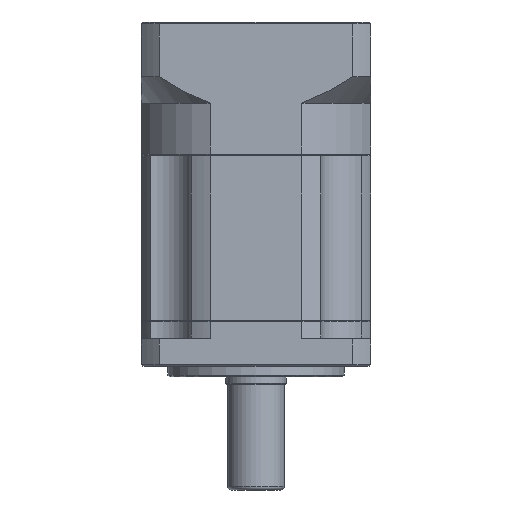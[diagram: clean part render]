
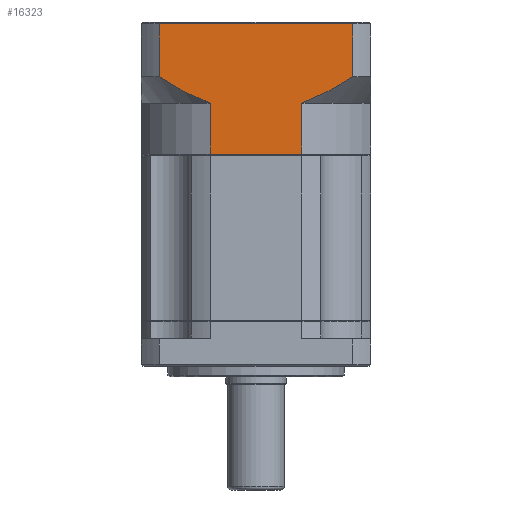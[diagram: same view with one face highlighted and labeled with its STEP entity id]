
A CAD part, front view. The second image highlights one B-rep face of the part: STEP entity #16323.
In plain terms, the highlighted planar face has unit normal (0, -1, 0).
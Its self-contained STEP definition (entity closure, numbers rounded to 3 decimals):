
#507 = CARTESIAN_POINT ( 'NONE',  ( 41.785, -33.003, 64.799 ) ) ;
#555 = DIRECTION ( 'NONE',  ( 1., 0., 0. ) ) ;
#2136 = CARTESIAN_POINT ( 'NONE',  ( 6.577, -33.003, 61.042 ) ) ;
#4035 = B_SPLINE_CURVE_WITH_KNOTS ( 'NONE', 3,
 ( #100606, #2136, #59998, #10468, #68275, #18844, #76339, #27121, #84563, #35482 ),
 .UNSPECIFIED., .F., .F.,
 ( 4, 2, 2, 2, 4 ),
 ( 0.101, 0.104, 0.106, 0.11, 0.118 ),
 .UNSPECIFIED. ) ;
#4650 = CARTESIAN_POINT ( 'NONE',  ( 7.22, -33.003, 60.803 ) ) ;
#5668 = CARTESIAN_POINT ( 'NONE',  ( 7.22, -33.003, 60.803 ) ) ;
#6410 = CARTESIAN_POINT ( 'NONE',  ( 47.596, -33.003, 83.303 ) ) ;
#7976 = VERTEX_POINT ( 'NONE', #5668 ) ;
#8330 = ORIENTED_EDGE ( 'NONE', *, *, #67797, .F. ) ;
#8870 = CARTESIAN_POINT ( 'NONE',  ( 35.739, -33.003, 61.746 ) ) ;
#10458 = VERTEX_POINT ( 'NONE', #6410 ) ;
#10468 = CARTESIAN_POINT ( 'NONE',  ( 4.678, -33.003, 61.82 ) ) ;
#11776 = DIRECTION ( 'NONE',  ( 0., 0., -1. ) ) ;
#12671 = ORIENTED_EDGE ( 'NONE', *, *, #68122, .T. ) ;
#16323 = ADVANCED_FACE ( 'NONE', ( #58262 ), #74970, .F. ) ;
#17025 = VERTEX_POINT ( 'NONE', #38387 ) ;
#18476 = CARTESIAN_POINT ( 'NONE',  ( -7.176, -33.003, 65.803 ) ) ;
#18844 = CARTESIAN_POINT ( 'NONE',  ( 2.201, -33.003, 62.943 ) ) ;
#22163 = VERTEX_POINT ( 'NONE', #87620 ) ;
#23977 = LINE ( 'NONE', #18476, #106120 ) ;
#24809 = VERTEX_POINT ( 'NONE', #56429 ) ;
#26712 = LINE ( 'NONE', #96708, #89619 ) ;
#27121 = CARTESIAN_POINT ( 'NONE',  ( -2.592, -33.003, 65.453 ) ) ;
#28158 = ORIENTED_EDGE ( 'NONE', *, *, #68420, .F. ) ;
#28615 = VERTEX_POINT ( 'NONE', #55992 ) ;
#32163 = ORIENTED_EDGE ( 'NONE', *, *, #68575, .F. ) ;
#33065 = DIRECTION ( 'NONE',  ( 0., 0., -1. ) ) ;
#35482 = CARTESIAN_POINT ( 'NONE',  ( -7.176, -33.003, 68.303 ) ) ;
#38387 = CARTESIAN_POINT ( 'NONE',  ( 47.596, -33.003, 68.303 ) ) ;
#39456 = VECTOR ( 'NONE', #11776, 1000. ) ;
#41053 = EDGE_LOOP ( 'NONE', ( #104895, #104991, #106392, #54357, #8330, #12671, #28158, #32163 ) ) ;
#41658 = VERTEX_POINT ( 'NONE', #59694 ) ;
#50114 = CARTESIAN_POINT ( 'NONE',  ( 42.97, -33.003, 65.469 ) ) ;
#54357 = ORIENTED_EDGE ( 'NONE', *, *, #67484, .F. ) ;
#55132 = LINE ( 'NONE', #4650, #95944 ) ;
#55992 = CARTESIAN_POINT ( 'NONE',  ( -7.176, -33.003, 83.303 ) ) ;
#56429 = CARTESIAN_POINT ( 'NONE',  ( -7.176, -33.003, 68.303 ) ) ;
#58262 = FACE_OUTER_BOUND ( 'NONE', #41053, .T. ) ;
#58385 = CARTESIAN_POINT ( 'NONE',  ( 38.191, -33.003, 62.89 ) ) ;
#59622 = DIRECTION ( 'NONE',  ( 0., 0., 1. ) ) ;
#59694 = CARTESIAN_POINT ( 'NONE',  ( 33.2, -33.003, 60.803 ) ) ;
#59998 = CARTESIAN_POINT ( 'NONE',  ( 5.938, -33.003, 61.294 ) ) ;
#60951 = VERTEX_POINT ( 'NONE', #103279 ) ;
#61347 = LINE ( 'NONE', #69878, #39456 ) ;
#62470 = DIRECTION ( 'NONE',  ( 0., 0., 1. ) ) ;
#66301 = CARTESIAN_POINT ( 'NONE',  ( 46.458, -33.003, 67.57 ) ) ;
#66667 = CARTESIAN_POINT ( 'NONE',  ( 33.2, -33.003, 60.803 ) ) ;
#66712 = EDGE_CURVE ( 'NONE', #10458, #17025, #106401, .T. ) ;
#67158 = EDGE_CURVE ( 'NONE', #10458, #28615, #26712, .T. ) ;
#67424 = B_SPLINE_CURVE_WITH_KNOTS ( 'NONE', 3,
 ( #82605, #66301, #99004, #50114, #507, #58385, #8870, #66667 ),
 .UNSPECIFIED., .F., .F.,
 ( 4, 2, 2, 4 ),
 ( 0.059, 0.063, 0.067, 0.075 ),
 .UNSPECIFIED. ) ;
#67463 = EDGE_CURVE ( 'NONE', #24809, #28615, #23977, .T. ) ;
#67484 = EDGE_CURVE ( 'NONE', #7976, #24809, #4035, .T. ) ;
#67797 = EDGE_CURVE ( 'NONE', #22163, #7976, #55132, .T. ) ;
#68122 = EDGE_CURVE ( 'NONE', #22163, #60951, #104826, .T. ) ;
#68275 = CARTESIAN_POINT ( 'NONE',  ( 4.054, -33.003, 62.093 ) ) ;
#68420 = EDGE_CURVE ( 'NONE', #41658, #60951, #61347, .T. ) ;
#68575 = EDGE_CURVE ( 'NONE', #17025, #41658, #67424, .T. ) ;
#69878 = CARTESIAN_POINT ( 'NONE',  ( 33.2, -33.003, 60.803 ) ) ;
#73227 = DIRECTION ( 'NONE',  ( -1., 0., 0. ) ) ;
#73353 = DIRECTION ( 'NONE',  ( 0., 1., 0. ) ) ;
#73373 = CARTESIAN_POINT ( 'NONE',  ( 52.71, -33.003, 83.803 ) ) ;
#74046 = CARTESIAN_POINT ( 'NONE',  ( 47.596, -33.003, 65.803 ) ) ;
#74970 = PLANE ( 'NONE',  #76447 ) ;
#76339 = CARTESIAN_POINT ( 'NONE',  ( 0.988, -33.003, 63.548 ) ) ;
#76447 = AXIS2_PLACEMENT_3D ( 'NONE', #73373, #73353, #73227 ) ;
#80525 = VECTOR ( 'NONE', #555, 1000. ) ;
#82605 = CARTESIAN_POINT ( 'NONE',  ( 47.596, -33.003, 68.303 ) ) ;
#84563 = CARTESIAN_POINT ( 'NONE',  ( -4.907, -33.003, 66.841 ) ) ;
#84696 = VECTOR ( 'NONE', #33065, 1000. ) ;
#87620 = CARTESIAN_POINT ( 'NONE',  ( 7.22, -33.003, 46.392 ) ) ;
#89619 = VECTOR ( 'NONE', #104980, 1000. ) ;
#95944 = VECTOR ( 'NONE', #62470, 1000. ) ;
#96708 = CARTESIAN_POINT ( 'NONE',  ( -7.176, -33.003, 83.303 ) ) ;
#99004 = CARTESIAN_POINT ( 'NONE',  ( 45.306, -33.003, 66.854 ) ) ;
#99065 = CARTESIAN_POINT ( 'NONE',  ( 52.71, -33.003, 46.392 ) ) ;
#100606 = CARTESIAN_POINT ( 'NONE',  ( 7.22, -33.003, 60.803 ) ) ;
#103279 = CARTESIAN_POINT ( 'NONE',  ( 33.2, -33.003, 46.392 ) ) ;
#104826 = LINE ( 'NONE', #99065, #80525 ) ;
#104895 = ORIENTED_EDGE ( 'NONE', *, *, #66712, .F. ) ;
#104980 = DIRECTION ( 'NONE',  ( -1., 0., 0. ) ) ;
#104991 = ORIENTED_EDGE ( 'NONE', *, *, #67158, .T. ) ;
#106120 = VECTOR ( 'NONE', #59622, 1000. ) ;
#106392 = ORIENTED_EDGE ( 'NONE', *, *, #67463, .F. ) ;
#106401 = LINE ( 'NONE', #74046, #84696 ) ;
